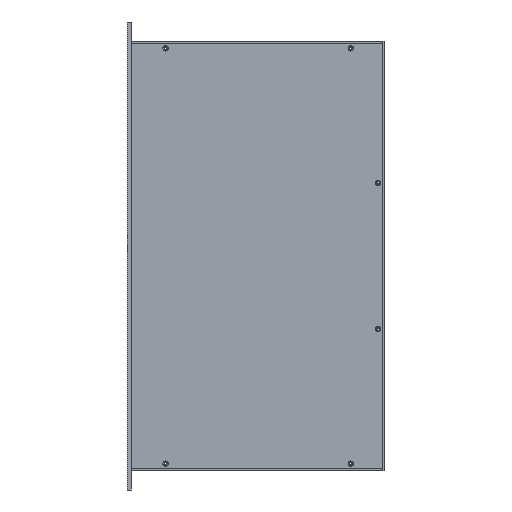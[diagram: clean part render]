
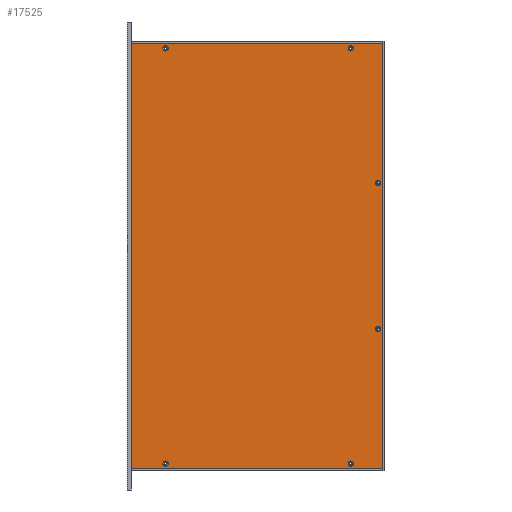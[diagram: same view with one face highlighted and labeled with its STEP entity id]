
A CAD part, front view. The second image highlights one B-rep face of the part: STEP entity #17525.
In plain terms, the highlighted planar face has unit normal (0, -1, 0).
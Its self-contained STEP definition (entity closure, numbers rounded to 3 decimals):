
#10 = CARTESIAN_POINT ( 'NONE',  ( 225.26, -44.483, 267. ) ) ;
#144 = CARTESIAN_POINT ( 'NONE',  ( 35.26, -44.483, 267. ) ) ;
#597 = DIRECTION ( 'NONE',  ( 0., 0., 1. ) ) ;
#613 = VECTOR ( 'NONE', #597, 1000. ) ;
#706 = CARTESIAN_POINT ( 'NONE',  ( 0.26, -44.483, 697.5 ) ) ;
#930 = FACE_BOUND ( 'NONE', #19980, .T. ) ;
#1129 = FACE_OUTER_BOUND ( 'NONE', #13177, .T. ) ;
#1222 = FACE_BOUND ( 'NONE', #19365, .T. ) ;
#1507 = VERTEX_POINT ( 'NONE', #9421 ) ;
#1612 = DIRECTION ( 'NONE',  ( -1., 0., 0. ) ) ;
#1857 = DIRECTION ( 'NONE',  ( 0., 1., 0. ) ) ;
#2052 = EDGE_CURVE ( 'NONE', #3998, #15797, #14497, .T. ) ;
#2549 = FACE_BOUND ( 'NONE', #16989, .T. ) ;
#2650 = FACE_BOUND ( 'NONE', #9254, .T. ) ;
#2749 = CARTESIAN_POINT ( 'NONE',  ( 258.26, -44.483, 697.5 ) ) ;
#3816 = AXIS2_PLACEMENT_3D ( 'NONE', #144, #17083, #10997 ) ;
#3963 = DIRECTION ( 'NONE',  ( 0., 1., 0. ) ) ;
#3998 = VERTEX_POINT ( 'NONE', #14272 ) ;
#4061 = CARTESIAN_POINT ( 'NONE',  ( 258.26, -44.483, 262.5 ) ) ;
#4334 = VERTEX_POINT ( 'NONE', #4061 ) ;
#4374 = EDGE_CURVE ( 'NONE', #11382, #11382, #8111, .T. ) ;
#4404 = LINE ( 'NONE', #18101, #16059 ) ;
#5010 = DIRECTION ( 'NONE',  ( -1., 0., 0. ) ) ;
#5172 = ORIENTED_EDGE ( 'NONE', *, *, #4374, .T. ) ;
#5182 = CARTESIAN_POINT ( 'NONE',  ( 258.26, -44.483, 697.5 ) ) ;
#5210 = DIRECTION ( 'NONE',  ( -1., 0., 0. ) ) ;
#5313 = DIRECTION ( 'NONE',  ( 0., 1., 0. ) ) ;
#5489 = CARTESIAN_POINT ( 'NONE',  ( 253.26, -44.483, 555. ) ) ;
#5504 = CIRCLE ( 'NONE', #16833, 2.75 ) ;
#5562 = CIRCLE ( 'NONE', #11726, 2.75 ) ;
#5579 = CARTESIAN_POINT ( 'NONE',  ( 253.26, -44.483, 405. ) ) ;
#6224 = CARTESIAN_POINT ( 'NONE',  ( 32.51, -44.483, 267. ) ) ;
#6642 = AXIS2_PLACEMENT_3D ( 'NONE', #10173, #5313, #5210 ) ;
#6746 = CIRCLE ( 'NONE', #18078, 2.75 ) ;
#6951 = EDGE_CURVE ( 'NONE', #13767, #4334, #12215, .T. ) ;
#6956 = CIRCLE ( 'NONE', #6642, 2.75 ) ;
#7125 = FACE_BOUND ( 'NONE', #7620, .T. ) ;
#7225 = EDGE_CURVE ( 'NONE', #1507, #1507, #6956, .T. ) ;
#7227 = FACE_BOUND ( 'NONE', #20061, .T. ) ;
#7252 = VERTEX_POINT ( 'NONE', #16678 ) ;
#7319 = DIRECTION ( 'NONE',  ( 0., -1., 0. ) ) ;
#7405 = ORIENTED_EDGE ( 'NONE', *, *, #18439, .T. ) ;
#7620 = EDGE_LOOP ( 'NONE', ( #15420 ) ) ;
#7641 = DIRECTION ( 'NONE',  ( 0., 0., -1. ) ) ;
#8111 = CIRCLE ( 'NONE', #19442, 2.75 ) ;
#8832 = LINE ( 'NONE', #2749, #15659 ) ;
#9254 = EDGE_LOOP ( 'NONE', ( #5172 ) ) ;
#9334 = DIRECTION ( 'NONE',  ( 0., 1., 0. ) ) ;
#9358 = VERTEX_POINT ( 'NONE', #6224 ) ;
#9421 = CARTESIAN_POINT ( 'NONE',  ( 222.51, -44.483, 693. ) ) ;
#9663 = VERTEX_POINT ( 'NONE', #15862 ) ;
#9902 = EDGE_CURVE ( 'NONE', #19259, #19259, #5504, .T. ) ;
#10173 = CARTESIAN_POINT ( 'NONE',  ( 225.26, -44.483, 693. ) ) ;
#10196 = VECTOR ( 'NONE', #7641, 1000. ) ;
#10201 = DIRECTION ( 'NONE',  ( -1., 0., 0. ) ) ;
#10558 = CARTESIAN_POINT ( 'NONE',  ( 129.26, -44.483, 480. ) ) ;
#10997 = DIRECTION ( 'NONE',  ( -1., 0., 0. ) ) ;
#11003 = ORIENTED_EDGE ( 'NONE', *, *, #6951, .F. ) ;
#11228 = CARTESIAN_POINT ( 'NONE',  ( 0.26, -44.483, 697.5 ) ) ;
#11382 = VERTEX_POINT ( 'NONE', #17562 ) ;
#11726 = AXIS2_PLACEMENT_3D ( 'NONE', #15509, #15724, #1612 ) ;
#12122 = CARTESIAN_POINT ( 'NONE',  ( 258.26, -44.483, 697.5 ) ) ;
#12215 = LINE ( 'NONE', #12122, #10196 ) ;
#12301 = EDGE_CURVE ( 'NONE', #15797, #13767, #8832, .T. ) ;
#12397 = ORIENTED_EDGE ( 'NONE', *, *, #9902, .T. ) ;
#13131 = ORIENTED_EDGE ( 'NONE', *, *, #12301, .F. ) ;
#13177 = EDGE_LOOP ( 'NONE', ( #14454, #11003, #13131, #15752 ) ) ;
#13415 = PLANE ( 'NONE',  #14161 ) ;
#13504 = DIRECTION ( 'NONE',  ( -1., 0., 0. ) ) ;
#13767 = VERTEX_POINT ( 'NONE', #5182 ) ;
#14161 = AXIS2_PLACEMENT_3D ( 'NONE', #10558, #7319, #13504 ) ;
#14212 = EDGE_CURVE ( 'NONE', #4334, #3998, #4404, .T. ) ;
#14249 = ORIENTED_EDGE ( 'NONE', *, *, #7225, .T. ) ;
#14272 = CARTESIAN_POINT ( 'NONE',  ( 0.26, -44.483, 262.5 ) ) ;
#14454 = ORIENTED_EDGE ( 'NONE', *, *, #14212, .F. ) ;
#14497 = LINE ( 'NONE', #706, #613 ) ;
#14619 = DIRECTION ( 'NONE',  ( -1., 0., 0. ) ) ;
#15420 = ORIENTED_EDGE ( 'NONE', *, *, #18911, .T. ) ;
#15509 = CARTESIAN_POINT ( 'NONE',  ( 35.26, -44.483, 693. ) ) ;
#15531 = DIRECTION ( 'NONE',  ( -1., 0., 0. ) ) ;
#15659 = VECTOR ( 'NONE', #16543, 1000. ) ;
#15724 = DIRECTION ( 'NONE',  ( 0., 1., 0. ) ) ;
#15752 = ORIENTED_EDGE ( 'NONE', *, *, #2052, .F. ) ;
#15797 = VERTEX_POINT ( 'NONE', #11228 ) ;
#15862 = CARTESIAN_POINT ( 'NONE',  ( 222.51, -44.483, 267. ) ) ;
#16059 = VECTOR ( 'NONE', #10201, 1000. ) ;
#16537 = EDGE_CURVE ( 'NONE', #7252, #7252, #5562, .T. ) ;
#16543 = DIRECTION ( 'NONE',  ( 1., 0., 0. ) ) ;
#16678 = CARTESIAN_POINT ( 'NONE',  ( 32.51, -44.483, 693. ) ) ;
#16833 = AXIS2_PLACEMENT_3D ( 'NONE', #5579, #1857, #5010 ) ;
#16989 = EDGE_LOOP ( 'NONE', ( #7405 ) ) ;
#17083 = DIRECTION ( 'NONE',  ( 0., 1., 0. ) ) ;
#17525 = ADVANCED_FACE ( 'NONE', ( #930, #2650, #7125, #2549, #7227, #1222, #1129 ), #13415, .T. ) ;
#17562 = CARTESIAN_POINT ( 'NONE',  ( 250.51, -44.483, 555. ) ) ;
#18078 = AXIS2_PLACEMENT_3D ( 'NONE', #10, #9334, #15531 ) ;
#18101 = CARTESIAN_POINT ( 'NONE',  ( 258.26, -44.483, 262.5 ) ) ;
#18132 = ORIENTED_EDGE ( 'NONE', *, *, #16537, .T. ) ;
#18439 = EDGE_CURVE ( 'NONE', #9358, #9358, #18722, .T. ) ;
#18722 = CIRCLE ( 'NONE', #3816, 2.75 ) ;
#18911 = EDGE_CURVE ( 'NONE', #9663, #9663, #6746, .T. ) ;
#19259 = VERTEX_POINT ( 'NONE', #19350 ) ;
#19350 = CARTESIAN_POINT ( 'NONE',  ( 250.51, -44.483, 405. ) ) ;
#19365 = EDGE_LOOP ( 'NONE', ( #14249 ) ) ;
#19442 = AXIS2_PLACEMENT_3D ( 'NONE', #5489, #3963, #14619 ) ;
#19980 = EDGE_LOOP ( 'NONE', ( #12397 ) ) ;
#20061 = EDGE_LOOP ( 'NONE', ( #18132 ) ) ;
